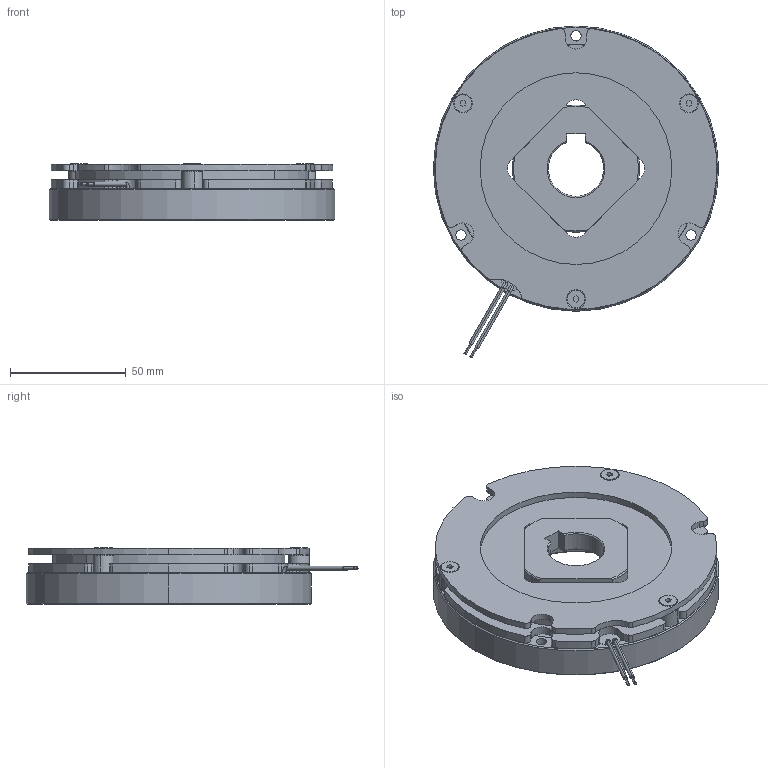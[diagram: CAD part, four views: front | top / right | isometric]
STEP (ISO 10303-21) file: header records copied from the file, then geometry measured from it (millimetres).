
FILE_DESCRIPTION (( 'STEP AP214' ), '1' );
FILE_NAME ('ÌÞÚ°·_BXR-10-10_STEP—p.STEP', '2017-09-22T04:14:43', ( 'MIKI' ), ( '' ), 'SwSTEP 2.0', 'SolidWorks 2012', '' );
FILE_SCHEMA (( 'AUTOMOTIVE_DESIGN' ));
Length unit declared in the file: millimetre
Products named in the file (1): ÌÞÚ°·_BXR-10-10_STEP—p
Bounding box: 123.5 x 143.73 x 24.54 mm (x, y, z)
Volume: 206645.8 mm3; surface area: 62793 mm2
Topology: 1 solids, 4 shells, 321 faces, 815 edges, 517 vertices
Faces by surface type: cylinder 160, plane 96, cone 59, torus 6
Entity records: 13431 total; most frequent: DIRECTION 1838, CARTESIAN_POINT 1720, ORIENTED_EDGE 1630, EDGE_CURVE 815, AXIS2_PLACEMENT_3D 723, VERTEX_POINT 517, CIRCLE 401, VECTOR 392
